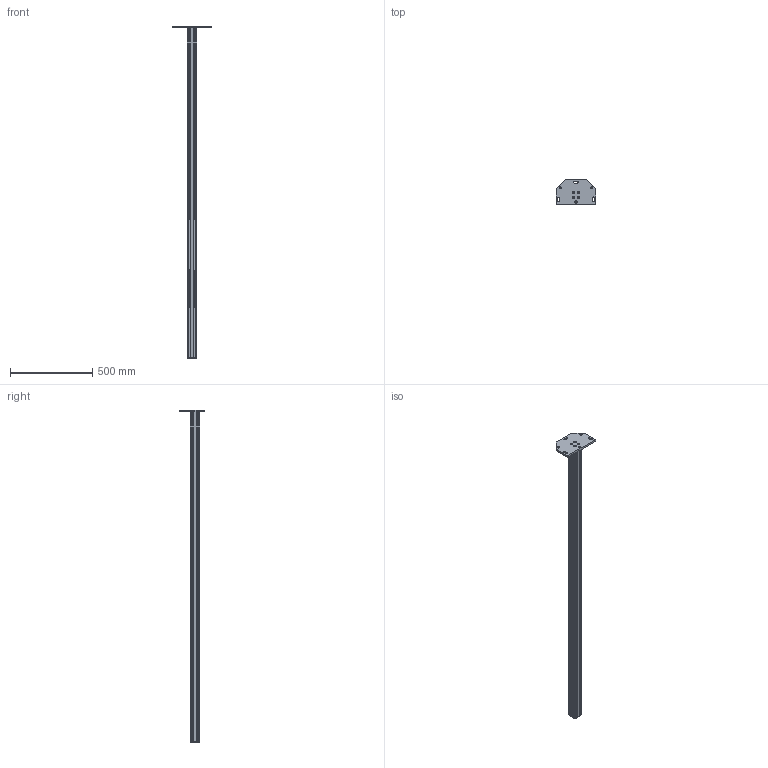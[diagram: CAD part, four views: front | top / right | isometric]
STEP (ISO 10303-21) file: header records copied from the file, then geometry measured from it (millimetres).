
FILE_DESCRIPTION (( 'STEP AP203' ), '1' );
FILE_NAME ('190007 Mounting Column 2000mm and floor mounting kit.STEP', '2011-02-21T12:22:25', ( 'CEDES AG' ), ( 'CEDES AG' ), 'SwSTEP 2.0', 'SolidWorks 2010', '' );
FILE_SCHEMA (( 'CONFIG_CONTROL_DESIGN' ));
Length unit declared in the file: millimetre
Products named in the file (7): 0043971 Abdeckprofil 6 300; 0041924 Abdeckkappe 6 60x60; 190007 Mounting Column 2000mm and floor mounting kit; Profil6 60x60x2000; 103586 Bodenplatte1; 0041940 Nutenstein 6 M6; 0041160 Zylinderschraube M6x28
Assembly tree (13 placements, depth 2):
  190007 Mounting Column 2000mm and floor mounting kit
    103586 Bodenplatte1
    0041940 Nutenstein 6 M6  x2
    0041160 Zylinderschraube M6x28  x4
    0041924 Abdeckkappe 6 60x60
    0043971 Abdeckprofil 6 300  x4
    Profil6 60x60x2000
Bounding box: 240 x 150 x 2015 mm (x, y, z)
Volume: 3097459.3 mm3; surface area: 1534787.4 mm2
Topology: 13 solids, 17 shells, 586 faces, 1595 edges, 1041 vertices
Faces by surface type: cylinder 308, plane 220, bspline 38, cone 20
Entity records: 13168 total; most frequent: CARTESIAN_POINT 2479, DIRECTION 2146, ORIENTED_EDGE 2034, EDGE_CURVE 1017, AXIS2_PLACEMENT_3D 785, VERTEX_POINT 667, VECTOR 576, LINE 576
